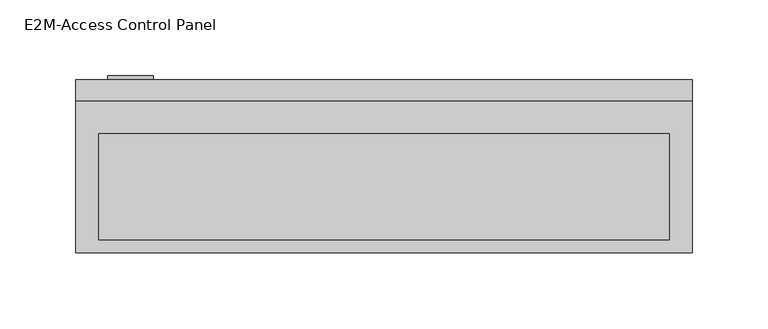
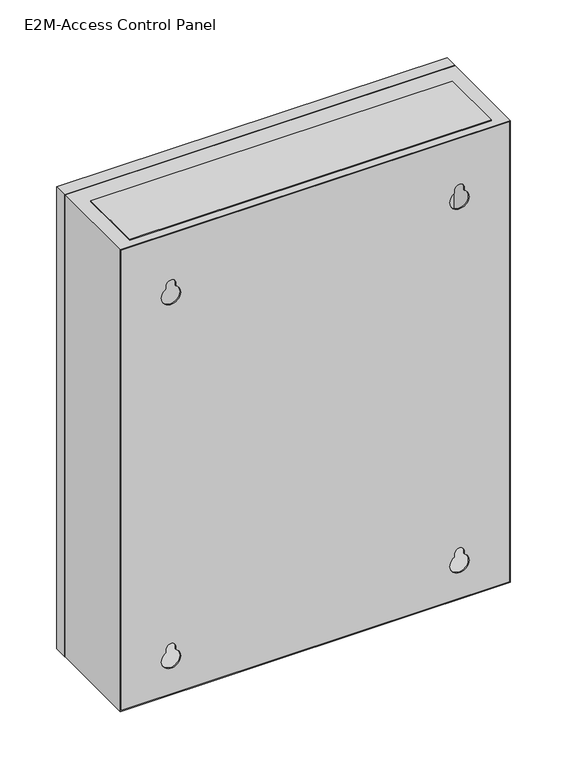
"""IFC4 building model written with IfcOpenShell, lengths in millimetres: proxy geometry, E2M_Access_Control_Panel_Wallmount_BIM_Model : E2M-Access Control Panel."""

from ifc_helpers import new_model, si_unit, point, frame, frame_2d, origin, place, context, project, spatial, polyline, circle_curve, trimmed, segment, composite_curve, outline, extrude, source, transform, mapped, element, save


def e2m_access_control_panel_011aee9f(model_context):
    return source(origin(), model_context, "Body", "SweptSolid", [
        extrude(outline(polyline([(188.0, 135.0), (188.0, 65.0), (-188.0, 65.0), (-188.0, 135.0), (188.0, 135.0)])), frame((0.0, 0.0, 1090.267542), z_axis=(0.0, 0.0, 1.0), x_axis=(1.0, 0.0, 0.0)), (0.0, 0.0, 1.0), 1.0),
        extrude(outline(polyline([(188.0, 128.5), (188.0, 58.5), (-188.0, 58.5), (-188.0, 128.5), (188.0, 128.5)])), frame((0.0, 0.0, 1599.1733261), z_axis=(0.0, 0.0, 1.0), x_axis=(1.0, 0.0, 0.0)), (0.0, 0.0, 1.0), 1.0),
        extrude(outline(composite_curve([segment(trimmed(circle_curve(frame_2d((1432.2477718, -167.0)), 15.0), [point((1432.2477718, -182.0))], [point((1432.2477718, -152.0))], False, "CARTESIAN"), True, "CONTINUOUS"), segment(trimmed(circle_curve(frame_2d((1432.2477718, -167.0)), 15.0), [point((1432.2477718, -152.0))], [point((1432.2477718, -182.0))], False, "CARTESIAN"), True, "CONTINUOUS")], self_intersect=False), holes=[composite_curve([segment(trimmed(circle_curve(frame_2d((1432.2477718, -167.0)), 10.0), [point((1432.2477718, -177.0))], [point((1432.2477718, -157.0))], True, "CARTESIAN"), True, "CONTINUOUS"), segment(trimmed(circle_curve(frame_2d((1432.2477718, -167.0)), 10.0), [point((1432.2477718, -157.0))], [point((1432.2477718, -177.0))], True, "CARTESIAN"), True, "CONTINUOUS")], self_intersect=False)]), frame((0.0, 164.0, 0.0), z_axis=(0.0, 1.0, 0.0), x_axis=(0.0, 0.0, 1.0)), (0.0, 0.0, 1.0), 2.4582379),
        extrude(outline(composite_curve([segment(trimmed(circle_curve(frame_2d((1432.2477718, -167.0)), 5.0), [point((1432.2477718, -172.0))], [point((1432.2477718, -162.0))], False, "CARTESIAN"), True, "CONTINUOUS"), segment(trimmed(circle_curve(frame_2d((1432.2477718, -167.0)), 5.0), [point((1432.2477718, -162.0))], [point((1432.2477718, -172.0))], False, "CARTESIAN"), True, "CONTINUOUS")], self_intersect=False)), frame((0.0, 164.0, 0.0), z_axis=(0.0, 1.0, 0.0), x_axis=(0.0, 0.0, 1.0)), (0.0, 0.0, 1.0), 2.4582379),
        extrude(outline(polyline([(1598.1733261, -202.0), (1092.1733261, -202.0), (1092.1733261, 202.0), (1598.1733261, 202.0), (1598.1733261, -202.0)]), holes=[composite_curve([segment(trimmed(circle_curve(frame_2d((1542.628956, -150.0)), 5.0), [point((1542.628956, -155.0))], [point((1542.628956, -145.0))], True, "CARTESIAN"), True, "CONTINUOUS"), segment(polyline([(1542.628956, -145.0), (1539.3330615, -145.0)]), True, "CONTINUOUS"), segment(trimmed(circle_curve(frame_2d((1530.6728075, -150.0)), 10.0), [point((1539.3330615, -145.0))], [point((1539.3330615, -155.0))], True, "CARTESIAN"), True, "CONTINUOUS"), segment(polyline([(1539.3330615, -155.0), (1542.628956, -155.0)]), True, "CONTINUOUS")], self_intersect=False), composite_curve([segment(trimmed(circle_curve(frame_2d((1542.628956, 150.0)), 5.0), [point((1542.628956, 145.0))], [point((1542.628956, 155.0))], True, "CARTESIAN"), True, "CONTINUOUS"), segment(polyline([(1542.628956, 155.0), (1539.3330615, 155.0)]), True, "CONTINUOUS"), segment(trimmed(circle_curve(frame_2d((1530.6728075, 150.0)), 10.0), [point((1539.3330615, 155.0))], [point((1539.3330615, 145.0))], True, "CARTESIAN"), True, "CONTINUOUS"), segment(polyline([(1539.3330615, 145.0), (1542.628956, 145.0)]), True, "CONTINUOUS")], self_intersect=False), composite_curve([segment(trimmed(circle_curve(frame_2d((1142.628956, -150.0)), 5.0), [point((1142.628956, -155.0))], [point((1142.628956, -145.0))], True, "CARTESIAN"), True, "CONTINUOUS"), segment(polyline([(1142.628956, -145.0), (1139.3330615, -145.0)]), True, "CONTINUOUS"), segment(trimmed(circle_curve(frame_2d((1130.6728075, -150.0)), 10.0), [point((1139.3330615, -145.0))], [point((1139.3330615, -155.0))], True, "CARTESIAN"), True, "CONTINUOUS"), segment(polyline([(1139.3330615, -155.0), (1142.628956, -155.0)]), True, "CONTINUOUS")], self_intersect=False), composite_curve([segment(trimmed(circle_curve(frame_2d((1142.628956, 150.0)), 5.0), [point((1142.628956, 145.0))], [point((1142.628956, 155.0))], True, "CARTESIAN"), True, "CONTINUOUS"), segment(polyline([(1142.628956, 155.0), (1139.3330615, 155.0)]), True, "CONTINUOUS"), segment(trimmed(circle_curve(frame_2d((1130.6728075, 150.0)), 10.0), [point((1139.3330615, 155.0))], [point((1139.3330615, 145.0))], True, "CARTESIAN"), True, "CONTINUOUS"), segment(polyline([(1139.3330615, 145.0), (1142.628956, 145.0)]), True, "CONTINUOUS")], self_intersect=False)]), frame((0.0, 50.0, 0.0), z_axis=(0.0, 1.0, 0.0), x_axis=(0.0, 0.0, 1.0)), (0.0, 0.0, 1.0), 1.0),
        extrude(outline(polyline([(203.0, 150.0), (-203.0, 150.0), (-203.0, 164.0), (203.0, 164.0), (203.0, 150.0)])), frame((0.0, 0.0, 1091.1733261), z_axis=(0.0, 0.0, 1.0), x_axis=(1.0, 0.0, 0.0)), (0.0, 0.0, 1.0), 508.0),
        extrude(outline(polyline([(1599.1733261, -203.0), (1091.267542, -203.0), (1091.267542, 203.0), (1599.1733261, 203.0), (1599.1733261, -203.0)]), holes=[polyline([(1598.1733261, -202.0), (1598.1733261, 202.0), (1092.267542, 202.0), (1092.267542, -202.0), (1598.1733261, -202.0)])]), frame((0.0, 50.0, 0.0), z_axis=(0.0, 1.0, 0.0), x_axis=(0.0, 0.0, 1.0)), (0.0, 0.0, 1.0), 100.0),
    ])


if __name__ == "__main__":
    model = new_model("IFC4")
    model_context = context("Model", 3, world=origin())
    ifc_project = project(units=[si_unit("LENGTHUNIT", "METRE", prefix="MILLI")], contexts=[model_context])
    site = spatial("IfcSite", under=ifc_project)
    building = spatial("IfcBuilding", under=site)
    placement = place(None, origin())
    e2m_access_control_panel_shape = e2m_access_control_panel_011aee9f(model_context)
    element("IfcBuildingElementProxy", 1, Name="E2M_Access_Control_Panel_Wallmount_BIM_Model : E2M-Access Control Panel", ObjectType="E2M_Access_Control_Panel_Wallmount_BIM_Model : E2M-Access Control Panel", at=placement, inside=building, context=model_context, shape_type="MappedRepresentation", body=[
        mapped(e2m_access_control_panel_shape, transform((0.0, 0.0, 0.0), x_axis=(1.0, 0.0, 0.0), y_axis=(0.0, 1.0, 0.0), z_axis=(0.0, 0.0, 1.0))),
    ])
    save(model, "model.ifc")
